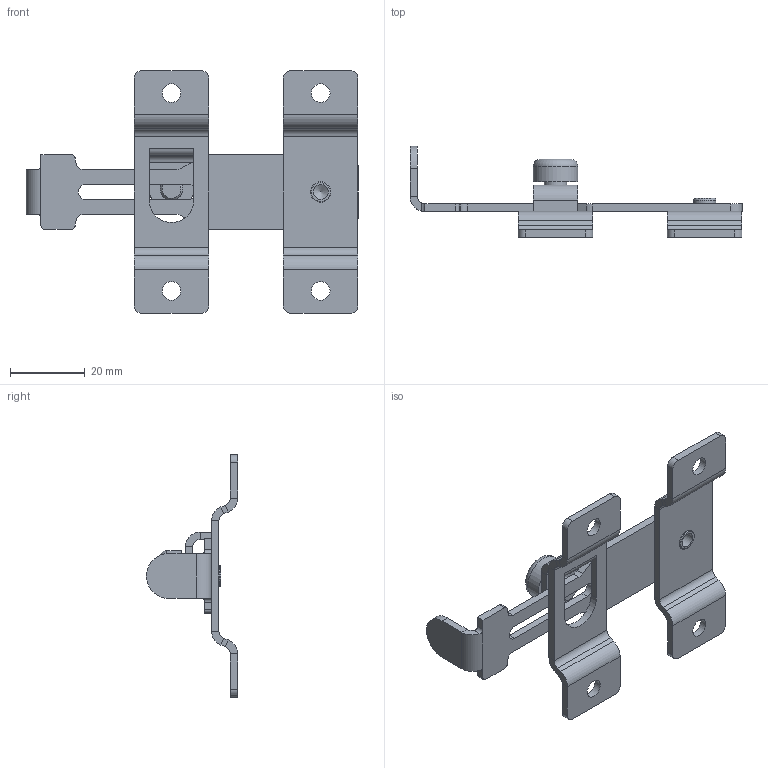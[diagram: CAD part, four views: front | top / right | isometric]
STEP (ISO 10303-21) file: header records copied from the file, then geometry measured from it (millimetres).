
FILE_DESCRIPTION(/* description */ (''),/* implementation_level */ '2;1');
FILE_NAME(/* name */ 'C:\Users\Owner\Documents\硯聰\Inv材料庫-自訂\特殊配件\旋轉打掛組合.stp',/* time_stamp */ '2019-04-01T15:59:34+08:00',/* author */ ('Owner'),/* organization */ (''),/* preprocessor_version */ 'ST-DEVELOPER v16.1',/* originating_system */ 'Autodesk Inventor 2016',/* authorisation */ '');
FILE_SCHEMA (('AUTOMOTIVE_DESIGN { 1 0 10303 214 3 1 1 }'));
Length unit declared in the file: millimetre
Products named in the file (6): 旋轉打掛-主體-B; 旋轉打掛-主體-A; 旋轉打掛-軸心; 旋轉打掛-固定板; 旋轉打掛-螺絲; 旋轉打掛組合
Assembly tree (5 placements, depth 2):
  旋轉打掛組合
    旋轉打掛-主體-B
    旋轉打掛-主體-A
    旋轉打掛-軸心
    旋轉打掛-固定板
    旋轉打掛-螺絲
Bounding box: 89.01 x 24.47 x 65 mm (x, y, z)
Volume: 9281 mm3; surface area: 10862.6 mm2
Topology: 5 solids, 5 shells, 168 faces, 379 edges, 224 vertices
Faces by surface type: plane 102, cylinder 60, torus 4, cone 2
Full cylindrical faces by diameter (mm): 4 x1, 5 x7, 5.5 x1, 6 x3, 12 x1
Entity records: 4688 total; most frequent: DIRECTION 838, CARTESIAN_POINT 797, ORIENTED_EDGE 718, EDGE_CURVE 359, AXIS2_PLACEMENT_3D 304, LINE 230, VECTOR 230, VERTEX_POINT 223
